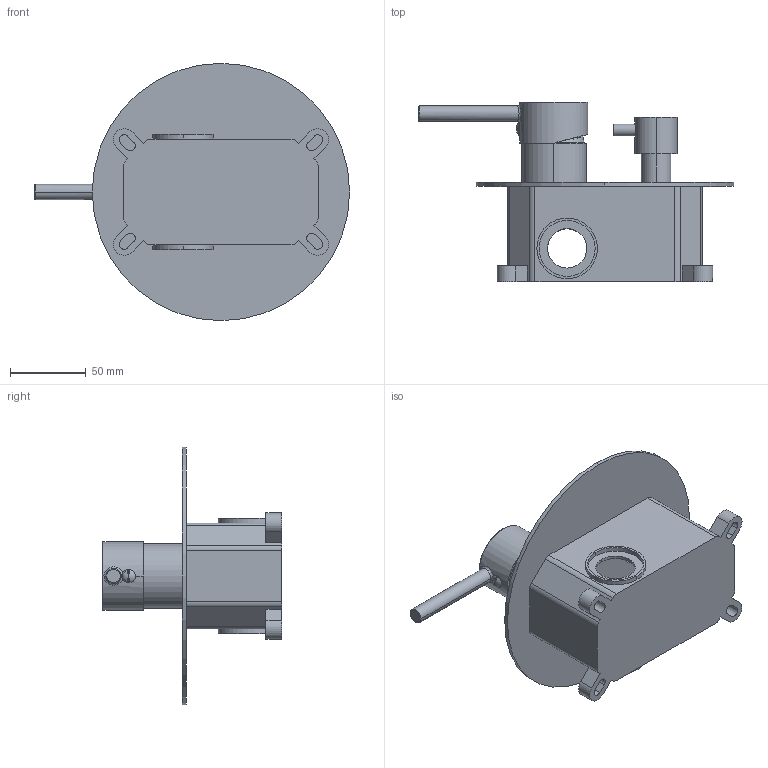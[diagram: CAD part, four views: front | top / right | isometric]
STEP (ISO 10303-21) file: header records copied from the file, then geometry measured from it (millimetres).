
FILE_DESCRIPTION((''),'2;1');
FILE_NAME('M62617-207C-A_ASM','2023-06-17T15:20:56',('Admin'),(''),'CREO PARAMETRIC BY PTC INC, 2018050','CREO PARAMETRIC BY PTC INC, 2018050','');
FILE_SCHEMA(('CONFIG_CONTROL_DESIGN'));
Length unit declared in the file: millimetre
Products named in the file (5): M62617-207C; H207; C03003; P21018; M62617-207C-A_ASM
Assembly tree (4 placements, depth 2):
  M62617-207C-A_ASM
    M62617-207C
    H207
    C03003
    P21018
Bounding box: 208.25 x 118.6 x 170 mm (x, y, z)
Volume: 195527.5 mm3; surface area: 136703.3 mm2
Topology: 6 solids, 7 shells, 209 faces, 527 edges, 343 vertices
Faces by surface type: plane 90, cylinder 89, torus 10, bspline 9, sphere 6, cone 5
Entity records: 8233 total; most frequent: CARTESIAN_POINT 3044, DIRECTION 1064, ORIENTED_EDGE 1046, EDGE_CURVE 525, AXIS2_PLACEMENT_3D 401, VERTEX_POINT 343, VECTOR 262, LINE 262
